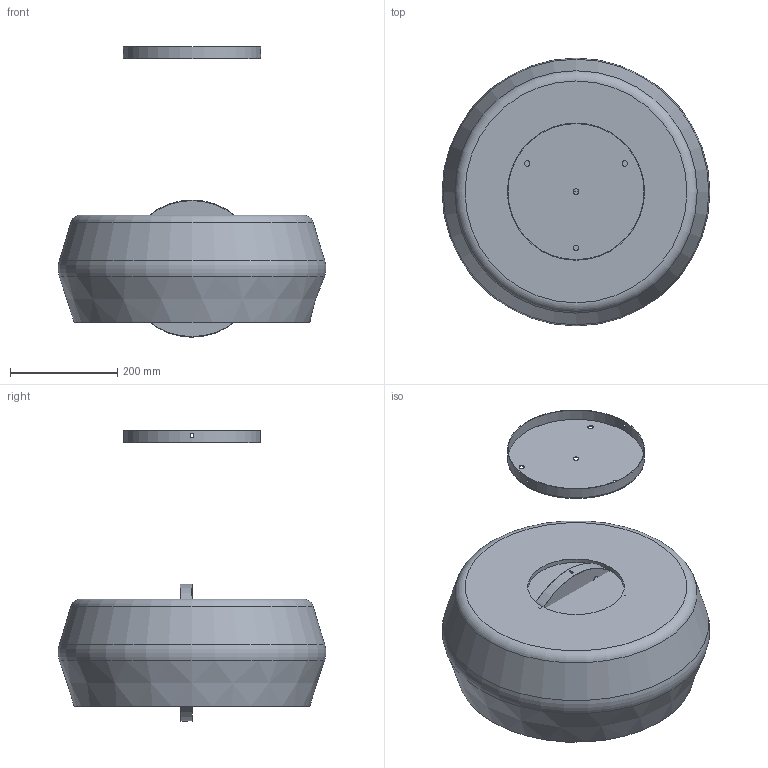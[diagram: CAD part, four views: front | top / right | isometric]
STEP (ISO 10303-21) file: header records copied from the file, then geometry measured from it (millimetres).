
FILE_DESCRIPTION( ( 'STEP AP203' ), '1' );
FILE_NAME( '//srvbf/BF Disegni/ROCCADRIA LUCA/PAGODA/PAGODA-S Sospensione 3D.stp', '2020-10-15T12:12:10', ( ' ' ), ( ' ' ), 'XStep 1.0', ' ', ' ' );
FILE_SCHEMA( ( 'CONFIG_CONTROL_DESIGN) ( )' ) );
Length unit declared in the file: metre
Products named in the file (4): Assem1; 1; 2; 3
Bounding box: 499.94 x 499.94 x 542.02 mm (x, y, z)
Volume: 8077098.4 mm3; surface area: 2222348.3 mm2
Topology: 6 solids, 6 shells, 94 faces, 208 edges, 134 vertices
Faces by surface type: cylinder 40, plane 38, torus 8, cone 8
Full cylindrical faces by diameter (mm): 5 x6, 10 x6, 10.5 x2, 180 x2, 205 x2, 254 x2, 256 x2, 430 x2
Entity records: 1472 total; most frequent: CARTESIAN_POINT 309, DIRECTION 208, ORIENTED_EDGE 162, AXIS2_PLACEMENT_3D 92, EDGE_LOOP 86, EDGE_CURVE 81, VERTEX_POINT 65, FACE_OUTER_BOUND 63
